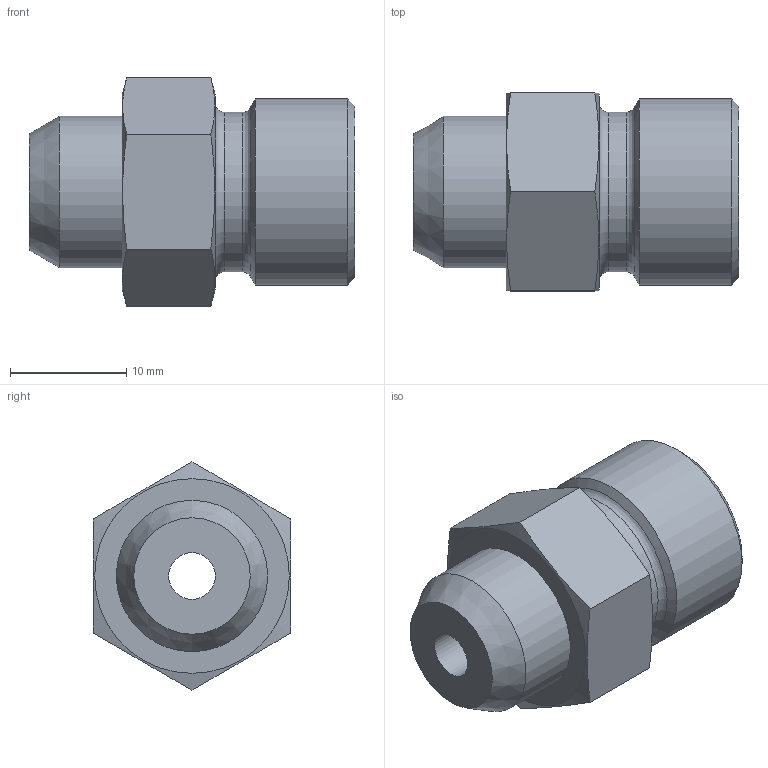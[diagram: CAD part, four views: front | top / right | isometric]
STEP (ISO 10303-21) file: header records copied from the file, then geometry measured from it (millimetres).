
FILE_DESCRIPTION( ( 'Unknown' ), '1' );
FILE_NAME( 'C:/Users/p.nanko/Desktop/3D SR/XASV08S.stp', 'Unknown', ( 'Peter Nanko' ), ( 'Armaturen Arndt' ), 'PSStep 14.0', 'Solid Edge ST4', ' ' );
FILE_SCHEMA( ( 'AUTOMOTIVE_DESIGN { 1 0 10303 214 1 1 1 1 }' ) );
Length unit declared in the file: millimetre
Products named in the file (1): 1
Bounding box: 28 x 17 x 19.63 mm (x, y, z)
Volume: 4540.1 mm3; surface area: 2262 mm2
Topology: 1 solids, 1 shells, 24 faces, 49 edges, 30 vertices
Faces by surface type: plane 11, cone 6, cylinder 5, torus 2
Full cylindrical faces by diameter (mm): 4 x1, 8 x1, 13 x1, 13.7 x1, 16 x1
Entity records: 800 total; most frequent: CARTESIAN_POINT 149, DIRECTION 90, ORIENTED_EDGE 70, AXIS2_PLACEMENT_3D 42, EDGE_LOOP 42, EDGE_CURVE 35, FACE_OUTER_BOUND 31, VERTEX_POINT 29
